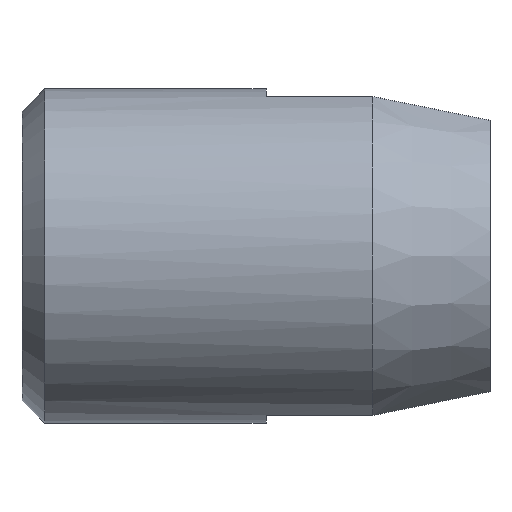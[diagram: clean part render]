
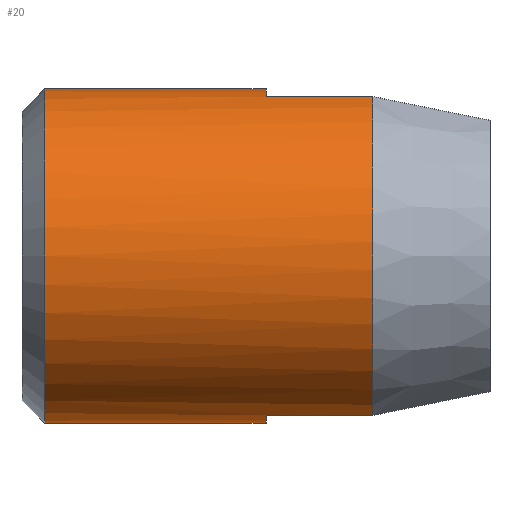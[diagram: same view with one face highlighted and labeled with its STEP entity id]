
A CAD part, front view. The second image highlights one B-rep face of the part: STEP entity #20.
In plain terms, the highlighted cylindrical face has radius 5 mm (diameter 10 mm), a partial arc.
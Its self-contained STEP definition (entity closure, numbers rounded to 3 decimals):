
#10 = CYLINDRICAL_SURFACE ( 'NONE', #437, 5. ) ;
#20 = ADVANCED_FACE ( 'NONE', ( #299 ), #10, .T. ) ;
#27 = ORIENTED_EDGE ( 'NONE', *, *, #130, .T. ) ;
#45 = CARTESIAN_POINT ( 'NONE',  ( -6.7, -1.5, -4.77 ) ) ;
#46 = CIRCLE ( 'NONE', #375, 5. ) ;
#47 = VERTEX_POINT ( 'NONE', #658 ) ;
#53 = DIRECTION ( 'NONE',  ( 0., 0., -1. ) ) ;
#64 = DIRECTION ( 'NONE',  ( 1., 0., 0. ) ) ;
#66 = DIRECTION ( 'NONE',  ( 1., 0., 0. ) ) ;
#87 = ORIENTED_EDGE ( 'NONE', *, *, #588, .F. ) ;
#88 = VECTOR ( 'NONE', #300, 1000. ) ;
#110 = ORIENTED_EDGE ( 'NONE', *, *, #326, .F. ) ;
#117 = DIRECTION ( 'NONE',  ( 1., 0., 0. ) ) ;
#120 = AXIS2_PLACEMENT_3D ( 'NONE', #225, #693, #464 ) ;
#125 = CARTESIAN_POINT ( 'NONE',  ( -6.7, 0., -5. ) ) ;
#130 = EDGE_CURVE ( 'NONE', #309, #47, #667, .T. ) ;
#159 = LINE ( 'NONE', #393, #237 ) ;
#177 = EDGE_LOOP ( 'NONE', ( #642, #27, #335, #370, #87, #110, #578, #189 ) ) ;
#183 = CARTESIAN_POINT ( 'NONE',  ( -6.7, 0., 0. ) ) ;
#184 = CARTESIAN_POINT ( 'NONE',  ( -13.325, 0., 0. ) ) ;
#189 = ORIENTED_EDGE ( 'NONE', *, *, #351, .F. ) ;
#214 = CARTESIAN_POINT ( 'NONE',  ( -3.5, -1.5, -4.77 ) ) ;
#221 = VERTEX_POINT ( 'NONE', #45 ) ;
#222 = DIRECTION ( 'NONE',  ( -1., 0., 0. ) ) ;
#225 = CARTESIAN_POINT ( 'NONE',  ( -6.7, 0., 0. ) ) ;
#236 = CARTESIAN_POINT ( 'NONE',  ( 21.562, 0., 0. ) ) ;
#237 = VECTOR ( 'NONE', #64, 1000. ) ;
#252 = DIRECTION ( 'NONE',  ( 1., 0., 0. ) ) ;
#275 = VERTEX_POINT ( 'NONE', #214 ) ;
#299 = FACE_OUTER_BOUND ( 'NONE', #177, .T. ) ;
#300 = DIRECTION ( 'NONE',  ( 1., 0., 0. ) ) ;
#304 = CARTESIAN_POINT ( 'NONE',  ( -6.7, -1.5, 4.77 ) ) ;
#309 = VERTEX_POINT ( 'NONE', #378 ) ;
#318 = CIRCLE ( 'NONE', #120, 5. ) ;
#326 = EDGE_CURVE ( 'NONE', #434, #275, #46, .T. ) ;
#335 = ORIENTED_EDGE ( 'NONE', *, *, #686, .T. ) ;
#349 = EDGE_CURVE ( 'NONE', #725, #434, #159, .T. ) ;
#351 = EDGE_CURVE ( 'NONE', #483, #725, #610, .T. ) ;
#370 = ORIENTED_EDGE ( 'NONE', *, *, #602, .F. ) ;
#375 = AXIS2_PLACEMENT_3D ( 'NONE', #438, #381, #619 ) ;
#378 = CARTESIAN_POINT ( 'NONE',  ( -13.325, 0., 5. ) ) ;
#381 = DIRECTION ( 'NONE',  ( 1., 0., 0. ) ) ;
#393 = CARTESIAN_POINT ( 'NONE',  ( 21.562, -1.5, 4.77 ) ) ;
#400 = LINE ( 'NONE', #640, #552 ) ;
#434 = VERTEX_POINT ( 'NONE', #466 ) ;
#437 = AXIS2_PLACEMENT_3D ( 'NONE', #236, #580, #53 ) ;
#438 = CARTESIAN_POINT ( 'NONE',  ( -3.5, 0., 0. ) ) ;
#464 = DIRECTION ( 'NONE',  ( 0., 0., 1. ) ) ;
#466 = CARTESIAN_POINT ( 'NONE',  ( -3.5, -1.5, 4.77 ) ) ;
#473 = CARTESIAN_POINT ( 'NONE',  ( 21.562, 0., 5. ) ) ;
#474 = CARTESIAN_POINT ( 'NONE',  ( -6.7, 0., 5. ) ) ;
#483 = VERTEX_POINT ( 'NONE', #474 ) ;
#552 = VECTOR ( 'NONE', #222, 1000. ) ;
#578 = ORIENTED_EDGE ( 'NONE', *, *, #349, .F. ) ;
#580 = DIRECTION ( 'NONE',  ( 1., 0., 0. ) ) ;
#587 = VECTOR ( 'NONE', #66, 1000. ) ;
#588 = EDGE_CURVE ( 'NONE', #275, #221, #400, .T. ) ;
#593 = CARTESIAN_POINT ( 'NONE',  ( 21.562, 0., -5. ) ) ;
#594 = DIRECTION ( 'NONE',  ( 0., 0., 1. ) ) ;
#602 = EDGE_CURVE ( 'NONE', #221, #692, #318, .T. ) ;
#610 = CIRCLE ( 'NONE', #636, 5. ) ;
#619 = DIRECTION ( 'NONE',  ( 0., 0., -1. ) ) ;
#636 = AXIS2_PLACEMENT_3D ( 'NONE', #183, #117, #594 ) ;
#640 = CARTESIAN_POINT ( 'NONE',  ( 21.562, -1.5, -4.77 ) ) ;
#642 = ORIENTED_EDGE ( 'NONE', *, *, #681, .F. ) ;
#643 = AXIS2_PLACEMENT_3D ( 'NONE', #184, #252, #728 ) ;
#650 = LINE ( 'NONE', #593, #587 ) ;
#658 = CARTESIAN_POINT ( 'NONE',  ( -13.325, 0., -5. ) ) ;
#667 = CIRCLE ( 'NONE', #643, 5. ) ;
#681 = EDGE_CURVE ( 'NONE', #309, #483, #696, .T. ) ;
#686 = EDGE_CURVE ( 'NONE', #47, #692, #650, .T. ) ;
#692 = VERTEX_POINT ( 'NONE', #125 ) ;
#693 = DIRECTION ( 'NONE',  ( 1., 0., 0. ) ) ;
#696 = LINE ( 'NONE', #473, #88 ) ;
#725 = VERTEX_POINT ( 'NONE', #304 ) ;
#728 = DIRECTION ( 'NONE',  ( 0., 0., 1. ) ) ;
